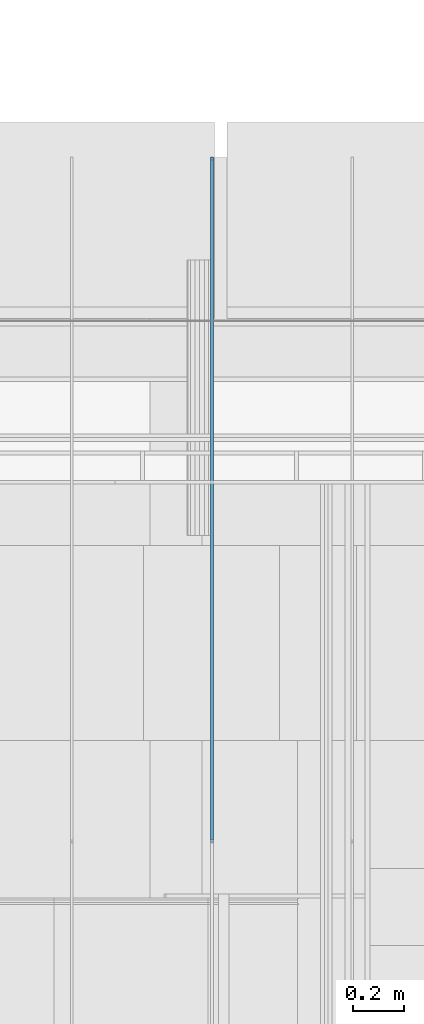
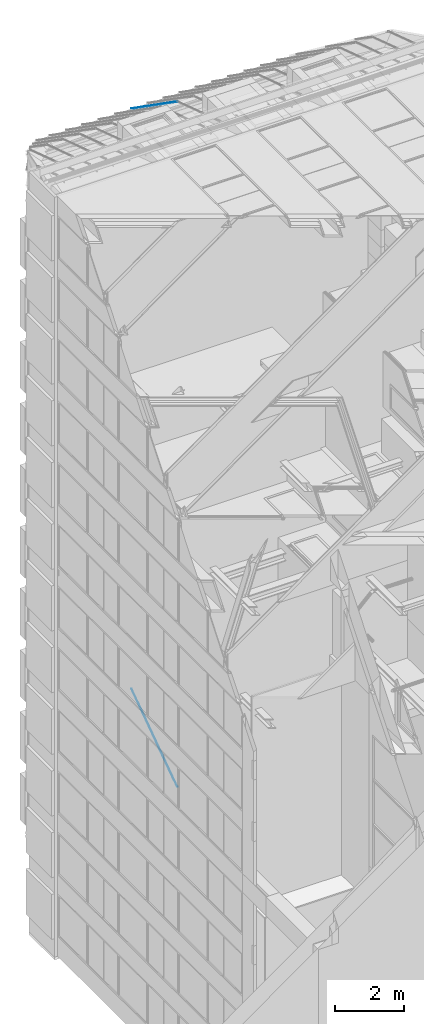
# One storey, part 279 of 583: 2 slabs.
"""IFC2X3 building model written with IfcOpenShell, lengths in metres."""

from ifc_helpers import new_model, entity, si_unit, converted_unit, derived_unit, money_unit, direction, frame, origin_with_axes, place, context, subcontext, project, spatial, faceted_brep, material, type_object, element, save


model = new_model("IFC2X3")

# Units and contexts
model_context = context("Model", 3, precision=1e-05, world=origin_with_axes(), true_north=direction((0.0, 1.0)))
body_context = subcontext(model_context, "Body", "Model", "MODEL_VIEW", scale=1.0)
ifc_project = project(units=[si_unit("LENGTHUNIT", "METRE"), si_unit("AREAUNIT", "SQUARE_METRE"), si_unit("VOLUMEUNIT", "CUBIC_METRE"), si_unit("ABSORBEDDOSEUNIT", "GRAY"), si_unit("AMOUNTOFSUBSTANCEUNIT", "MOLE"), si_unit("DOSEEQUIVALENTUNIT", "SIEVERT"), si_unit("ELECTRICCAPACITANCEUNIT", "FARAD"), si_unit("ELECTRICCHARGEUNIT", "COULOMB"), si_unit("ELECTRICCONDUCTANCEUNIT", "SIEMENS"), si_unit("ELECTRICCURRENTUNIT", "AMPERE"), si_unit("ELECTRICRESISTANCEUNIT", "OHM"), si_unit("ELECTRICVOLTAGEUNIT", "VOLT"), si_unit("ENERGYUNIT", "JOULE"), si_unit("FORCEUNIT", "NEWTON"), si_unit("FREQUENCYUNIT", "HERTZ"), si_unit("ILLUMINANCEUNIT", "LUX"), si_unit("INDUCTANCEUNIT", "HENRY"), si_unit("LUMINOUSFLUXUNIT", "LUMEN"), si_unit("LUMINOUSINTENSITYUNIT", "CANDELA"), si_unit("MAGNETICFLUXDENSITYUNIT", "TESLA"), si_unit("MAGNETICFLUXUNIT", "WEBER"), si_unit("MASSUNIT", "GRAM"), converted_unit("PLANEANGLEUNIT", "degree", entity("IfcReal", 0.0174532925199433), si_unit("PLANEANGLEUNIT", "RADIAN"), dimensions=[0, 0, 0, 0, 0, 0, 0]), si_unit("POWERUNIT", "WATT"), si_unit("PRESSUREUNIT", "PASCAL"), si_unit("RADIOACTIVITYUNIT", "BECQUEREL"), si_unit("SOLIDANGLEUNIT", "STERADIAN"), si_unit("THERMODYNAMICTEMPERATUREUNIT", "KELVIN"), si_unit("TIMEUNIT", "SECOND"), derived_unit("ACCELERATIONUNIT", [(si_unit("LENGTHUNIT", "METRE"), 1), (si_unit("TIMEUNIT", "SECOND"), -2)]), derived_unit("ANGULARVELOCITYUNIT", [(converted_unit("PLANEANGLEUNIT", "degree", entity("IfcReal", 0.0174532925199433), si_unit("PLANEANGLEUNIT", "RADIAN"), dimensions=[0, 0, 0, 0, 0, 0, 0]), 1), (si_unit("TIMEUNIT", "SECOND"), -1)]), derived_unit("CURVATUREUNIT", [(converted_unit("PLANEANGLEUNIT", "degree", entity("IfcReal", 0.0174532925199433), si_unit("PLANEANGLEUNIT", "RADIAN"), dimensions=[0, 0, 0, 0, 0, 0, 0]), 1), (si_unit("LENGTHUNIT", "METRE"), -1)]), derived_unit("DYNAMICVISCOSITYUNIT", [(si_unit("PRESSUREUNIT", "PASCAL"), 1), (si_unit("TIMEUNIT", "SECOND"), 1)]), derived_unit("HEATFLUXDENSITYUNIT", [(si_unit("POWERUNIT", "WATT"), 1), (si_unit("LENGTHUNIT", "METRE"), -2)]), derived_unit("HEATINGVALUEUNIT", [(si_unit("ENERGYUNIT", "JOULE"), 1), (si_unit("MASSUNIT", "GRAM"), -1)]), derived_unit("INTEGERCOUNTRATEUNIT", [(si_unit("TIMEUNIT", "SECOND"), -1)]), derived_unit("IONCONCENTRATIONUNIT", [(si_unit("MASSUNIT", "GRAM"), 1), (si_unit("VOLUMEUNIT", "CUBIC_METRE"), -1)]), derived_unit("ISOTHERMALMOISTURECAPACITYUNIT", [(si_unit("VOLUMEUNIT", "CUBIC_METRE"), 1), (si_unit("MASSUNIT", "GRAM"), -1)]), derived_unit("KINEMATICVISCOSITYUNIT", [(si_unit("AREAUNIT", "SQUARE_METRE"), 1), (si_unit("TIMEUNIT", "SECOND"), -1)]), derived_unit("LINEARFORCEUNIT", [(si_unit("FORCEUNIT", "NEWTON"), 1), (si_unit("LENGTHUNIT", "METRE"), -1)]), derived_unit("LINEARMOMENTUNIT", [(si_unit("FORCEUNIT", "NEWTON"), 1), (si_unit("LENGTHUNIT", "METRE"), -1)]), derived_unit("LINEARSTIFFNESSUNIT", [(si_unit("FORCEUNIT", "NEWTON"), 1), (si_unit("LENGTHUNIT", "METRE"), -1)]), derived_unit("LINEARVELOCITYUNIT", [(si_unit("LENGTHUNIT", "METRE"), 1), (si_unit("TIMEUNIT", "SECOND"), -1)]), derived_unit("LUMINOUSINTENSITYDISTRIBUTIONUNIT", [(si_unit("LUMINOUSINTENSITYUNIT", "CANDELA"), 1), (si_unit("LUMINOUSFLUXUNIT", "LUMEN"), -1)]), derived_unit("MASSDENSITYUNIT", [(si_unit("MASSUNIT", "GRAM"), 1), (si_unit("VOLUMEUNIT", "CUBIC_METRE"), -1)]), derived_unit("MASSFLOWRATEUNIT", [(si_unit("MASSUNIT", "GRAM"), 1), (si_unit("TIMEUNIT", "SECOND"), -1)]), derived_unit("MASSPERLENGTHUNIT", [(si_unit("MASSUNIT", "GRAM"), 1), (si_unit("LENGTHUNIT", "METRE"), -1)]), derived_unit("MODULUSOFELASTICITYUNIT", [(si_unit("FORCEUNIT", "NEWTON"), 1), (si_unit("AREAUNIT", "SQUARE_METRE"), -1)]), derived_unit("MODULUSOFLINEARSUBGRADEREACTIONUNIT", [(si_unit("FORCEUNIT", "NEWTON"), 1), (si_unit("LENGTHUNIT", "METRE"), -2)]), derived_unit("MODULUSOFROTATIONALSUBGRADEREACTIONUNIT", [(si_unit("FORCEUNIT", "NEWTON"), 1), (si_unit("LENGTHUNIT", "METRE"), 1)]), derived_unit("MODULUSOFSUBGRADEREACTIONUNIT", [(si_unit("FORCEUNIT", "NEWTON"), 1), (si_unit("VOLUMEUNIT", "CUBIC_METRE"), -1)]), derived_unit("MOISTUREDIFFUSIVITYUNIT", [(si_unit("VOLUMEUNIT", "CUBIC_METRE"), 1), (si_unit("TIMEUNIT", "SECOND"), -1)]), derived_unit("MOLECULARWEIGHTUNIT", [(si_unit("MASSUNIT", "GRAM"), 1), (si_unit("AMOUNTOFSUBSTANCEUNIT", "MOLE"), -1)]), derived_unit("PLANARFORCEUNIT", [(si_unit("FORCEUNIT", "NEWTON"), 1), (si_unit("LENGTHUNIT", "METRE"), -2)]), derived_unit("ROTATIONALFREQUENCYUNIT", [(si_unit("TIMEUNIT", "SECOND"), -1)]), derived_unit("ROTATIONALMASSUNIT", [(si_unit("MASSUNIT", "GRAM"), 1), (si_unit("LENGTHUNIT", "METRE"), 2)]), derived_unit("ROTATIONALSTIFFNESSUNIT", [(si_unit("FORCEUNIT", "NEWTON"), 1), (si_unit("LENGTHUNIT", "METRE"), 1), (converted_unit("PLANEANGLEUNIT", "degree", entity("IfcReal", 0.0174532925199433), si_unit("PLANEANGLEUNIT", "RADIAN"), dimensions=[0, 0, 0, 0, 0, 0, 0]), -1)]), derived_unit("SECTIONAREAINTEGRALUNIT", [(si_unit("LENGTHUNIT", "METRE"), 5)]), derived_unit("SECTIONMODULUSUNIT", [(si_unit("LENGTHUNIT", "METRE"), 3)]), derived_unit("SHEARMODULUSUNIT", [(si_unit("FORCEUNIT", "NEWTON"), 1), (si_unit("AREAUNIT", "SQUARE_METRE"), -1)]), derived_unit("SOUNDPOWERUNIT", [(si_unit("ENERGYUNIT", "JOULE"), 1), (si_unit("TIMEUNIT", "SECOND"), -1)]), derived_unit("SPECIFICHEATCAPACITYUNIT", [(si_unit("FORCEUNIT", "NEWTON"), 1), (si_unit("MASSUNIT", "GRAM"), -1), (si_unit("THERMODYNAMICTEMPERATUREUNIT", "KELVIN"), -1)]), derived_unit("TEMPERATUREGRADIENTUNIT", [(si_unit("THERMODYNAMICTEMPERATUREUNIT", "KELVIN"), 1), (si_unit("LENGTHUNIT", "METRE"), -1)]), derived_unit("THERMALADMITTANCEUNIT", [(si_unit("POWERUNIT", "WATT"), 1), (si_unit("AREAUNIT", "SQUARE_METRE"), -1), (si_unit("THERMODYNAMICTEMPERATUREUNIT", "KELVIN"), -1)]), derived_unit("THERMALCONDUCTANCEUNIT", [(si_unit("POWERUNIT", "WATT"), 1), (si_unit("LENGTHUNIT", "METRE"), -1), (si_unit("THERMODYNAMICTEMPERATUREUNIT", "KELVIN"), -1)]), derived_unit("THERMALEXPANSIONCOEFFICIENTUNIT", [(si_unit("THERMODYNAMICTEMPERATUREUNIT", "KELVIN"), -1)]), derived_unit("THERMALRESISTANCEUNIT", [(si_unit("AREAUNIT", "SQUARE_METRE"), 1), (si_unit("POWERUNIT", "WATT"), -1)]), derived_unit("THERMALTRANSMITTANCEUNIT", [(si_unit("POWERUNIT", "WATT"), 1), (si_unit("AREAUNIT", "SQUARE_METRE"), -1), (si_unit("THERMODYNAMICTEMPERATUREUNIT", "KELVIN"), -1)]), derived_unit("TORQUEUNIT", [(si_unit("FORCEUNIT", "NEWTON"), 1), (si_unit("LENGTHUNIT", "METRE"), 1)]), derived_unit("VAPORPERMEABILITYUNIT", [(si_unit("MASSUNIT", "GRAM"), 1), (si_unit("TIMEUNIT", "SECOND"), -1)]), derived_unit("VOLUMETRICFLOWRATEUNIT", [(si_unit("VOLUMEUNIT", "CUBIC_METRE"), 1), (si_unit("TIMEUNIT", "SECOND"), -1)]), derived_unit("WARPINGCONSTANTUNIT", [(si_unit("LENGTHUNIT", "METRE"), 6)]), derived_unit("WARPINGMOMENTUNIT", [(si_unit("FORCEUNIT", "NEWTON"), 1), (si_unit("LENGTHUNIT", "METRE"), 2)]), money_unit("GBP")], contexts=[model_context])

# Site, building, storey
site_placement = place(None, origin_with_axes())
site = spatial("IfcSite", under=ifc_project, at=site_placement, Name="Site", CompositionType="ELEMENT")
building_placement = place(site_placement, origin_with_axes())
building = spatial("IfcBuilding", under=site, at=building_placement, Name="Building01", CompositionType="ELEMENT")
storey_placement = place(building_placement, frame((0.0, 0.0, 20.78), z_axis=(0.0, 0.0, 1.0), x_axis=(1.0, 0.0, 0.0)))
storey = spatial("IfcBuildingStorey", under=building, at=storey_placement, Name="RL", CompositionType="ELEMENT", Elevation=20.78)

# Slabs
ifc_material = material(Name="A_BSUK_Roofs")
slab_type = type_object("IfcSlabType", Name="A-FloorsSlabs A_BSUK_Slabs", PredefinedType="FLOOR")
slab_1_placement = place(storey_placement, frame((6.361475, 18.780461, -19.44574), z_axis=(0.0, 1.0, 0.0), x_axis=(0.0, 0.0, 1.0)))
element("IfcSlab", 1, at=slab_1_placement, inside=storey, type_object=slab_type, material=ifc_material, Name="A-FloorsSlabs A_BSUK_Slabs", ObjectType="A-FloorsSlabs A_BSUK_Slabs", context=body_context, shape_type="Brep", body=[
    faceted_brep([(1.86568, 0.0, 2.664467), (1.849297, 0.0, 2.675938), (-0.016383, 0.0, 0.011472), (0.0, 0.0, 0.0), (-0.016383, 0.01, 0.011472), (0.0, 0.01, 0.0), (1.849297, 0.01, 2.675938), (1.86568, 0.01, 2.664467)], [[[0, 1, 2, 3]], [[3, 2, 4, 5]], [[5, 4, 6, 7]], [[7, 6, 1, 0]], [[1, 6, 4, 2]], [[3, 5, 7, 0]]]),
])
slab_2_placement = place(storey_placement, frame((0.0, 0.0, -20.78), z_axis=(0.0, 0.0, 1.0), x_axis=(1.0, 0.0, 0.0)))
element("IfcSlab", 2, at=slab_2_placement, inside=storey, type_object=slab_type, material=ifc_material, Name="A-FloorsSlabs A_BSUK_Slabs", ObjectType="CompoundSlabLeaf", context=body_context, shape_type="Brep", body=[
    faceted_brep([(6.361475, 18.780461, 25.64574), (6.361475, 18.791933, 25.662123), (6.361475, 21.456399, 23.796444), (6.361475, 21.444928, 23.780061), (6.371475, 18.780461, 25.64574), (6.371475, 18.791933, 25.662123), (6.371475, 21.444928, 23.780061), (6.371475, 21.456399, 23.796444)], [[[0, 1, 2, 3]], [[4, 5, 1, 0]], [[6, 7, 5, 4]], [[3, 2, 7, 6]], [[1, 5, 7, 2]], [[3, 6, 4, 0]]]),
])

save(model, "model.ifc")
